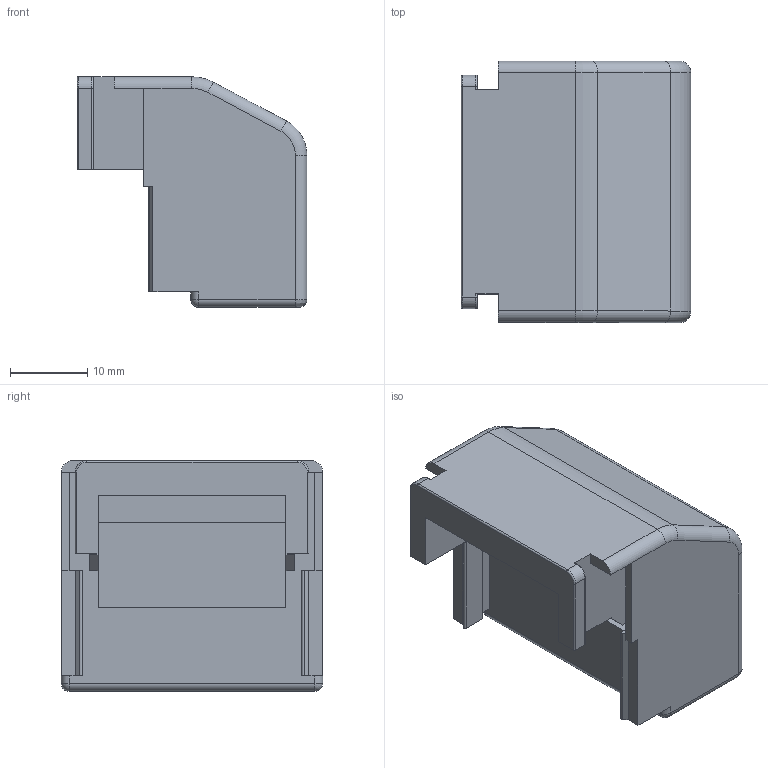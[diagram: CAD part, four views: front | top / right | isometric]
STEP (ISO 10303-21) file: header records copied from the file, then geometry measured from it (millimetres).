
FILE_DESCRIPTION((''),'2;1');
FILE_NAME('DEWI_SR-MINI_DMEC-ASSY_280','2015-12-16T',('emanuel.wild'),(''),'PRO/ENGINEER BY PARAMETRIC TECHNOLOGY CORPORATION, 2015200','PRO/ENGINEER BY PARAMETRIC TECHNOLOGY CORPORATION, 2015200','');
FILE_SCHEMA(('AUTOMOTIVE_DESIGN { 1 0 10303 214 1 1 1 1 }'));
Length unit declared in the file: millimetre
Products named in the file (2): DEWI_SR-MINI_DMEC; DEWI_SR-MINI_DMEC-ASSY_280
Assembly tree (1 placements, depth 2):
  DEWI_SR-MINI_DMEC-ASSY_280
    DEWI_SR-MINI_DMEC
Bounding box: 29.7 x 33.8 x 29.8 mm (x, y, z)
Volume: 12669.7 mm3; surface area: 6811.5 mm2
Topology: 1 solids, 1 shells, 101 faces, 264 edges, 166 vertices
Faces by surface type: plane 60, cylinder 29, torus 8, bspline 2, sphere 2
Entity records: 3780 total; most frequent: CARTESIAN_POINT 568, DIRECTION 536, ORIENTED_EDGE 528, EDGE_CURVE 264, VECTOR 196, LINE 196, AXIS2_PLACEMENT_3D 170, VERTEX_POINT 166
